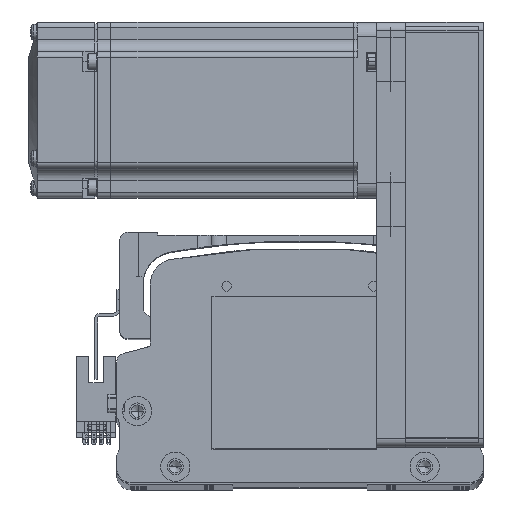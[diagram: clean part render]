
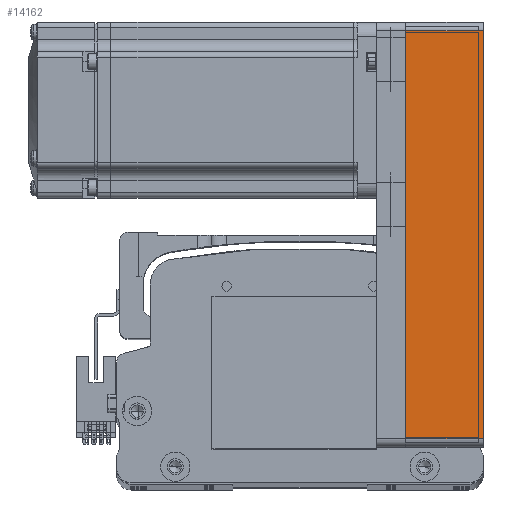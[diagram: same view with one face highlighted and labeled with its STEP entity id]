
A CAD part, top view. The second image highlights one B-rep face of the part: STEP entity #14162.
In plain terms, the highlighted planar face has unit normal (0, 0, 1) as drawn and (0, 1, 0) by its records, which use the part's own axes.
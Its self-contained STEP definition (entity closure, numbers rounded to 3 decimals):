
#4809 = CARTESIAN_POINT ( 'NONE',  ( 72.5, 30., 0. ) ) ;
#4933 = LINE ( 'NONE', #6738, #39631 ) ;
#6115 = LINE ( 'NONE', #26600, #38768 ) ;
#6738 = CARTESIAN_POINT ( 'NONE',  ( -69.5, 30., 26.5 ) ) ;
#9300 = VERTEX_POINT ( 'NONE', #75680 ) ;
#9415 = LINE ( 'NONE', #35189, #34952 ) ;
#10405 = LINE ( 'NONE', #4809, #43061 ) ;
#10980 = ORIENTED_EDGE ( 'NONE', *, *, #22293, .T. ) ;
#11385 = DIRECTION ( 'NONE',  ( -1., 0., 0. ) ) ;
#11760 = EDGE_LOOP ( 'NONE', ( #40550, #44185, #70024, #10980 ) ) ;
#12041 = AXIS2_PLACEMENT_3D ( 'NONE', #31040, #76729, #37595 ) ;
#14162 = ADVANCED_FACE ( 'NONE', ( #40973 ), #61825, .F. ) ;
#16269 = CARTESIAN_POINT ( 'NONE',  ( -69.5, 30., 26.5 ) ) ;
#22293 = EDGE_CURVE ( 'NONE', #66505, #80706, #6115, .T. ) ;
#26600 = CARTESIAN_POINT ( 'NONE',  ( 69.5, 30., 26.5 ) ) ;
#26855 = DIRECTION ( 'NONE',  ( 0., 0., -1. ) ) ;
#29364 = EDGE_CURVE ( 'NONE', #9300, #80152, #4933, .T. ) ;
#31040 = CARTESIAN_POINT ( 'NONE',  ( 72.5, 30., 26.5 ) ) ;
#34952 = VECTOR ( 'NONE', #74341, 1000. ) ;
#35101 = EDGE_CURVE ( 'NONE', #66505, #80152, #9415, .T. ) ;
#35189 = CARTESIAN_POINT ( 'NONE',  ( 72.5, 30., 26.5 ) ) ;
#36337 = CARTESIAN_POINT ( 'NONE',  ( 69.5, 30., 0. ) ) ;
#37595 = DIRECTION ( 'NONE',  ( 1., 0., 0. ) ) ;
#38768 = VECTOR ( 'NONE', #26855, 1000. ) ;
#39631 = VECTOR ( 'NONE', #45831, 1000. ) ;
#40550 = ORIENTED_EDGE ( 'NONE', *, *, #58162, .T. ) ;
#40973 = FACE_OUTER_BOUND ( 'NONE', #11760, .T. ) ;
#43061 = VECTOR ( 'NONE', #11385, 1000. ) ;
#44185 = ORIENTED_EDGE ( 'NONE', *, *, #29364, .T. ) ;
#45831 = DIRECTION ( 'NONE',  ( 0., 0., 1. ) ) ;
#58162 = EDGE_CURVE ( 'NONE', #80706, #9300, #10405, .T. ) ;
#61825 = PLANE ( 'NONE',  #12041 ) ;
#66505 = VERTEX_POINT ( 'NONE', #69748 ) ;
#69748 = CARTESIAN_POINT ( 'NONE',  ( 69.5, 30., 26.5 ) ) ;
#70024 = ORIENTED_EDGE ( 'NONE', *, *, #35101, .F. ) ;
#74341 = DIRECTION ( 'NONE',  ( -1., 0., 0. ) ) ;
#75680 = CARTESIAN_POINT ( 'NONE',  ( -69.5, 30., 0. ) ) ;
#76729 = DIRECTION ( 'NONE',  ( 0., -1., 0. ) ) ;
#80152 = VERTEX_POINT ( 'NONE', #16269 ) ;
#80706 = VERTEX_POINT ( 'NONE', #36337 ) ;
